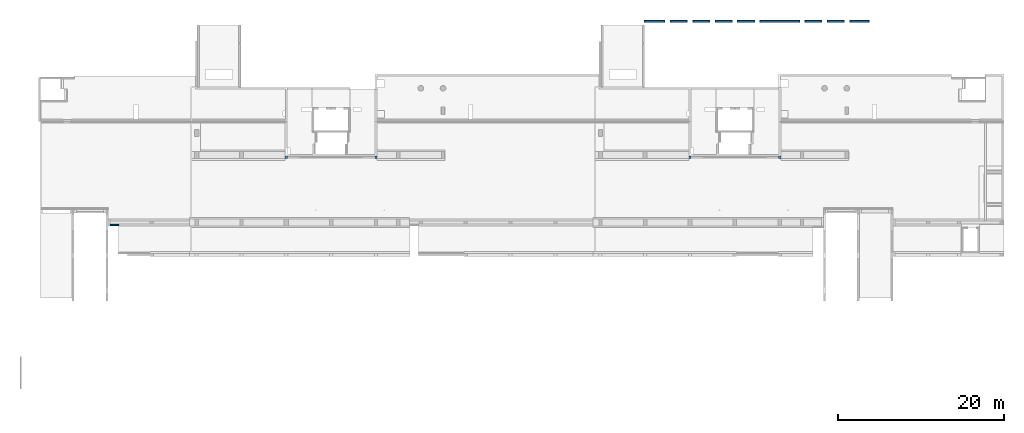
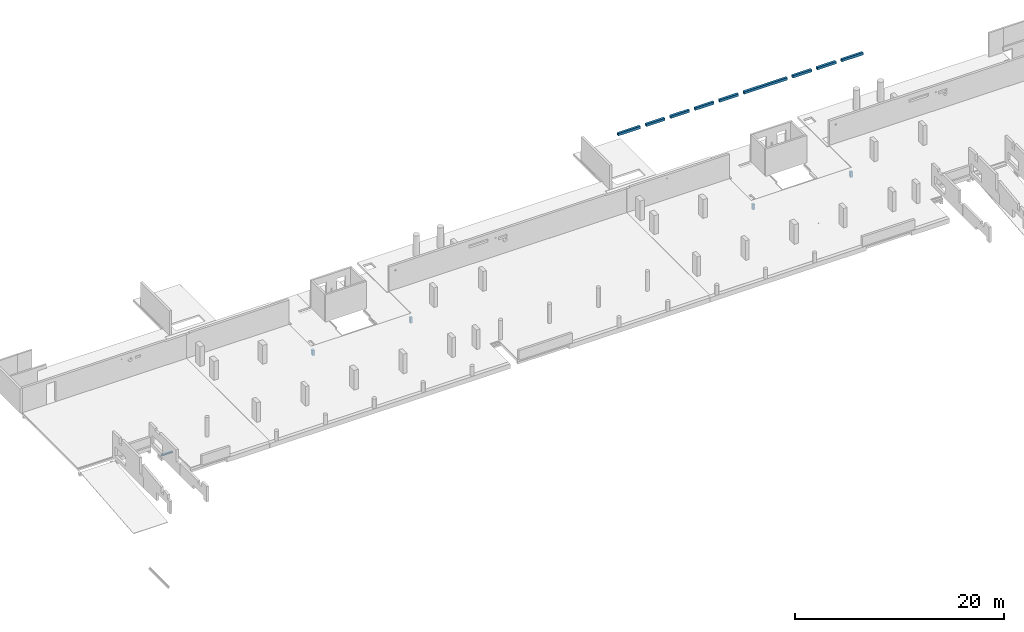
# One storey, part 3 of 10: 6 beams.
"""IFC2X3 building model written with IfcOpenShell, lengths in millimetres."""

from ifc_helpers import new_model, entity, si_unit, converted_unit, derived_unit, direction, frame, frame_2d, origin, origin_2d_with_axis, place, context, subcontext, project, spatial, rectangle, extrude, faceted_brep, source, transform, mapped, material, type_object, type_shapes, element, save


model = new_model("IFC2X3")

# Units and contexts
model_context = context("Model", 3, precision=0.01, world=origin(), true_north=direction((6.12303176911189e-17, 1.0)))
body_context = subcontext(model_context, "Body", "Model", "MODEL_VIEW")
ifc_project = project(units=[si_unit("LENGTHUNIT", "METRE", prefix="MILLI"), si_unit("AREAUNIT", "SQUARE_METRE"), si_unit("VOLUMEUNIT", "CUBIC_METRE"), converted_unit("PLANEANGLEUNIT", "DEGREE", entity("IfcRatioMeasure", 0.0174532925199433), si_unit("PLANEANGLEUNIT", "RADIAN"), dimensions=[0, 0, 0, 0, 0, 0, 0]), si_unit("MASSUNIT", "GRAM", prefix="KILO"), derived_unit("MASSDENSITYUNIT", [(si_unit("MASSUNIT", "GRAM", prefix="KILO"), 1), (si_unit("LENGTHUNIT", "METRE"), -3)]), si_unit("TIMEUNIT", "SECOND"), si_unit("FREQUENCYUNIT", "HERTZ"), si_unit("THERMODYNAMICTEMPERATUREUNIT", "DEGREE_CELSIUS"), derived_unit("THERMALTRANSMITTANCEUNIT", [(si_unit("MASSUNIT", "GRAM", prefix="KILO"), 1), (si_unit("THERMODYNAMICTEMPERATUREUNIT", "KELVIN"), -1), (si_unit("TIMEUNIT", "SECOND"), -3)]), derived_unit("VOLUMETRICFLOWRATEUNIT", [(si_unit("LENGTHUNIT", "METRE"), 3), (si_unit("TIMEUNIT", "SECOND"), -1)]), si_unit("ELECTRICCURRENTUNIT", "AMPERE"), si_unit("ELECTRICVOLTAGEUNIT", "VOLT"), si_unit("POWERUNIT", "WATT"), si_unit("FORCEUNIT", "NEWTON", prefix="KILO"), si_unit("ILLUMINANCEUNIT", "LUX"), si_unit("LUMINOUSFLUXUNIT", "LUMEN"), si_unit("LUMINOUSINTENSITYUNIT", "CANDELA"), derived_unit("USERDEFINED", [(si_unit("MASSUNIT", "GRAM", prefix="KILO"), -1), (si_unit("LENGTHUNIT", "METRE"), -2), (si_unit("TIMEUNIT", "SECOND"), 3), (si_unit("LUMINOUSFLUXUNIT", "LUMEN"), 1)]), derived_unit("LINEARVELOCITYUNIT", [(si_unit("LENGTHUNIT", "METRE"), 1), (si_unit("TIMEUNIT", "SECOND"), -1)]), si_unit("PRESSUREUNIT", "PASCAL"), derived_unit("USERDEFINED", [(si_unit("LENGTHUNIT", "METRE"), -2), (si_unit("MASSUNIT", "GRAM", prefix="KILO"), 1), (si_unit("TIMEUNIT", "SECOND"), -2)])], contexts=[model_context])

# Site, building, storey
site_placement = place(None, origin())
site = spatial("IfcSite", under=ifc_project, at=site_placement, Name="Default", CompositionType="ELEMENT")
building_placement = place(site_placement, origin())
building = spatial("IfcBuilding", under=site, at=building_placement, Name="niet gebruiken", CompositionType="ELEMENT")
storey_placement = place(building_placement, frame((0.0, 0.0, 9410.0)))
storey = spatial("IfcBuildingStorey", under=building, at=storey_placement, Name="02b tweede tussenverdieping", CompositionType="ELEMENT", Elevation=9409.99999999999)

# Beams
ifc_material_1 = material(Name="NLRS_f2_beton ihwg")
beam_type_1 = type_object("IfcBeamType", Name="250x280", PredefinedType="BEAM", material=ifc_material_1)
shared_shape = source(origin(), body_context, "Body", "SweptSolid", [
    extrude(rectangle(XDim=2489.99999999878, YDim=250.000000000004, at=frame_2d((278.333333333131, 0.0), x_axis=(1.0, 0.0))), frame((81866.6666666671, 53131.0, 9010.0)), (0.0, 0.0, 1.0), 279.999999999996),
    extrude(rectangle(XDim=2370.00000000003, YDim=250.000000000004, at=frame_2d((298.333333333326, -2.20339302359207e-11), x_axis=(1.0, 0.0))), frame((107093.333333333, 53131.0, 9010.0), z_axis=(0.0, 0.0, 1.0), x_axis=(-1.0, 0.0, 0.0)), (0.0, 0.0, 1.0), 279.999999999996),
    extrude(rectangle(XDim=2080.0, YDim=250.000000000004, at=frame_2d((-1.72803993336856e-11, 4.33431068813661e-12), x_axis=(1.0, 0.0))), frame((101250.0, 53131.0, 9010.0), z_axis=(0.0, 0.0, 1.0), x_axis=(-1.0, 0.0, 0.0)), (0.0, 0.0, 1.0), 279.999999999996),
    extrude(rectangle(XDim=2080.00000000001, YDim=250.000000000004, at=origin_2d_with_axis()), frame((103950.0, 53131.0, 9010.0)), (0.0, 0.0, 1.0), 279.999999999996),
    extrude(rectangle(XDim=4779.99999999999, YDim=249.999999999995, at=frame_2d((1.05683284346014e-09, -1.29887212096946e-11), x_axis=(1.0, 0.0))), frame((97200.0, 53131.0, 9010.0), z_axis=(0.0, 0.0, 1.0), x_axis=(-1.0, 0.0, 0.0)), (0.0, 0.0, 1.0), 279.999999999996),
    extrude(rectangle(XDim=2080.00000000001, YDim=250.000000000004, at=frame_2d((0.0, -4.33431068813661e-12), x_axis=(1.0, 0.0))), frame((93150.0, 53131.0, 9010.0), z_axis=(0.0, 0.0, 1.0), x_axis=(-1.0, 0.0, 0.0)), (0.0, 0.0, 1.0), 279.999999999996),
    extrude(rectangle(XDim=2079.99999999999, YDim=249.999999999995, at=frame_2d((8.75388650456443e-12, 8.66862137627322e-12), x_axis=(1.0, 0.0))), frame((90450.0, 53131.0, 9010.0), z_axis=(0.0, 0.0, 1.0), x_axis=(-1.0, 0.0, 0.0)), (0.0, 0.0, 1.0), 279.999999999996),
    extrude(rectangle(XDim=2080.00000000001, YDim=249.999999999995, at=frame_2d((0.0, 8.66862137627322e-12), x_axis=(1.0, 0.0))), frame((87750.0, 53131.0, 9010.0), z_axis=(0.0, 0.0, 1.0), x_axis=(-1.0, 0.0, 0.0)), (0.0, 0.0, 1.0), 279.999999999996),
    extrude(rectangle(XDim=2080.0, YDim=250.000000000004, at=frame_2d((-8.64019966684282e-12, 4.33431068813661e-12), x_axis=(1.0, 0.0))), frame((85050.0, 53131.0, 9010.0), z_axis=(0.0, 0.0, 1.0), x_axis=(-1.0, 0.0, 0.0)), (0.0, 0.0, 1.0), 279.999999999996),
])
type_shapes(beam_type_1, [shared_shape])
beam_1_placement = place(storey_placement, frame((0.0, 0.0, -9410.0)))
element("IfcBeam", 1, at=beam_1_placement, inside=storey, type_object=beam_type_1, material=ifc_material_1, Name="NLRS_28.11_SF_WPB_betonbalk ihwg recht_gen:250x280", ObjectType="250x280", context=body_context, shape_type="MappedRepresentation", body=[
    mapped(shared_shape, transform((0.0, 0.0, 0.0), scale=1.0)),
])
beam_type_2 = type_object("IfcBeamType", Name="NLRS_28.11_SF_WPB_oplegnok ihwg beton_gen:620x250", PredefinedType="BEAM")
beam_2_placement = place(storey_placement, frame((37800.0, 36856.0, -330.0), z_axis=(0.0, 0.0, 1.0), x_axis=(0.0, -1.0, 0.0)))
element("IfcBeam", 2, at=beam_2_placement, inside=storey, type_object=beam_type_2, material=ifc_material_1, Name="NLRS_28.11_SF_WPB_oplegnok ihwg beton_gen:620x250", ObjectType="NLRS_28.11_SF_WPB_oplegnok ihwg beton_gen:620x250", context=body_context, shape_type="SweptSolid", body=[
    extrude(rectangle(XDim=620.000000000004, YDim=249.999999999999, at=frame_2d((5.40012479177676e-13, -2.16715534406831e-12), x_axis=(1.0, 0.0))), frame((0.0, 0.0, -310.0), z_axis=(1.0, 0.0, 0.0), x_axis=(0.0, 0.0, -1.0)), (0.0, 0.0, 1.0), 299.999999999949),
])
beam_3_placement = place(storey_placement, frame((48600.0, 36856.0, -330.0), z_axis=(0.0, 0.0, 1.0), x_axis=(0.0, -1.0, 0.0)))
element("IfcBeam", 3, at=beam_3_placement, inside=storey, type_object=beam_type_2, material=ifc_material_1, Name="NLRS_28.11_SF_WPB_oplegnok ihwg beton_gen:620x250", ObjectType="NLRS_28.11_SF_WPB_oplegnok ihwg beton_gen:620x250", context=body_context, shape_type="SweptSolid", body=[
    extrude(rectangle(XDim=620.000000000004, YDim=250.000000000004, at=frame_2d((5.40012479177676e-13, -4.33431068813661e-12), x_axis=(1.0, 0.0))), frame((0.0, 0.0, -310.0), z_axis=(1.0, 0.0, 0.0), x_axis=(0.0, 0.0, -1.0)), (0.0, 0.0, 1.0), 299.999999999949),
])
for number, where, z_axis, x_axis, name in (
    (4, (86400.0, 36856.0, -330.0), (0.0, 0.0, 1.0), (0.0, -1.0, 0.0), "NLRS_28.11_SF_WPB_oplegnok ihwg beton_gen:620x250"),
    (5, (97200.0, 36856.0, -330.0), (0.0, 0.0, 1.0), (0.0, -1.0, 0.0), "NLRS_28.11_SF_WPB_oplegnok ihwg beton_gen:620x250"),
):
    element("IfcBeam", number, at=place(storey_placement, frame(where, z_axis=z_axis, x_axis=x_axis)), inside=storey, type_object=beam_type_2, material=ifc_material_1, Name=name, ObjectType="NLRS_28.11_SF_WPB_oplegnok ihwg beton_gen:620x250", context=body_context, shape_type="SweptSolid", body=[
        extrude(rectangle(XDim=620.000000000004, YDim=250.000000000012, at=frame_2d((5.40012479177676e-13, 0.0), x_axis=(1.0, 0.0))), frame((0.0, 0.0, -310.0), z_axis=(1.0, 0.0, 0.0), x_axis=(0.0, 0.0, -1.0)), (0.0, 0.0, 1.0), 299.999999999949),
    ])
ifc_material_2 = material(Name="NLRS_f2_beton prefab")
beam_type_3 = type_object("IfcBeamType", Name="NLRS_28.11_SF_WPB_prefabbeton balk recht_gen:200x140", PredefinedType="BEAM")
beam_4_placement = place(storey_placement, frame((16345.0, 28481.0, -330.079998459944)))
element("IfcBeam", 6, at=beam_4_placement, inside=storey, type_object=beam_type_3, material=ifc_material_2, Name="NLRS_28.11_SF_WPB_prefabbeton balk recht_gen:200x140", ObjectType="NLRS_28.11_SF_WPB_prefabbeton balk recht_gen:200x140", context=body_context, shape_type="Brep", body=[
    faceted_brep([(0.0, 200.0, 140.0), (0.0, 200.0, 0.0), (0.0, 0.0, 0.0), (0.0, 0.0, 140.0), (1270.0, 0.0, 0.0), (1270.0, 200.0, 0.0), (1270.0, 200.0, 140.0), (1270.0, 180.0, 140.0), (1270.0, 180.0, 5.07999845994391), (1270.0, 0.0, 5.07999845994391), (1250.0, 0.0, 5.07999845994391), (1250.0, 0.0, 140.0), (1250.0, 180.0, 140.0), (1250.0, 180.0, 5.07999845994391)], [[[0, 1, 2, 3]], [[4, 5, 6, 7, 8, 9]], [[1, 0, 6, 5]], [[2, 1, 5, 4]], [[3, 2, 4, 9, 10, 11]], [[0, 3, 11, 12, 7, 6]], [[13, 12, 11, 10]], [[12, 13, 8, 7]], [[8, 13, 10, 9]]]),
])

save(model, "model.ifc")
